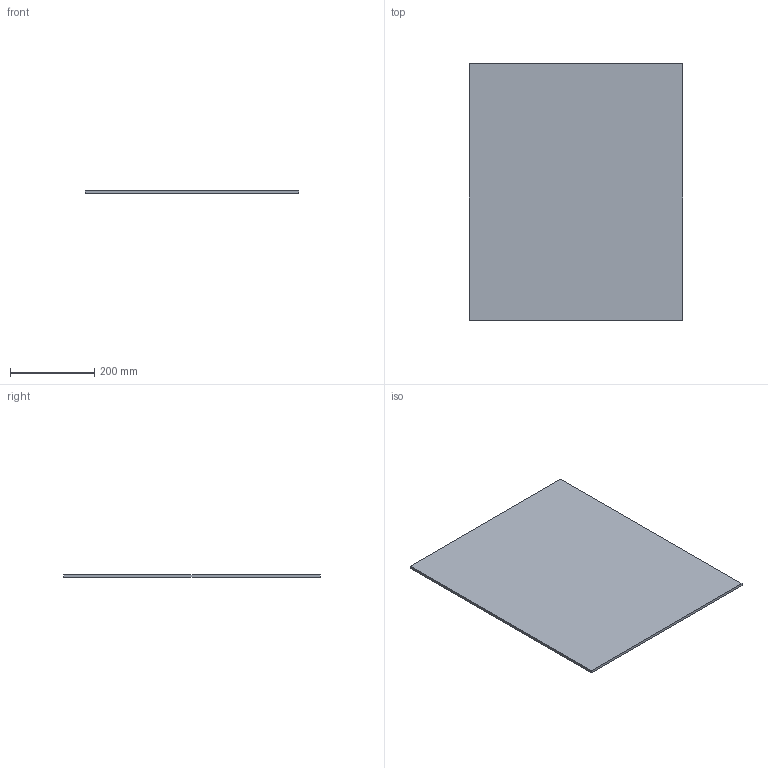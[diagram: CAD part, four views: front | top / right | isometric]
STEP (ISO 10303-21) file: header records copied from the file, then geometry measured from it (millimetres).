
FILE_DESCRIPTION(/* description */ ('STEP AP242 Edition 2','CAx-IF Rec.Pracs.---Representation and Presentation of Product Manufacturing Information (PMI)---4.0---2014-10-13','CAx-IF Rec.Pracs.---3D Tessellated Geometry---0.4---2014-09-14','2;1','CAx-IF Rec.Pracs.---User Defined Attributes---1.5---2016-08-15'),/* implementation_level */ '2;1');
FILE_NAME(/* name */ 'Mounting Surface',/* time_stamp */ '2025-11-29T19:54:07Z',/* author */ (''),/* organization */ (''),/* preprocessor_version */ 'ST-DEVELOPER v20',/* originating_system */ 'ONSHAPE BY PTC INC, 1.207',/* authorisation */ ' ');
FILE_SCHEMA (('AP242_MANAGED_MODEL_BASED_3D_ENGINEERING_MIM_LF { 1 0 10303 442 3 1 4 }'));
Length unit declared in the file: metre
Products named in the file (1): Mounting Surface
Bounding box: 508 x 609.6 x 6.35 mm (x, y, z)
Volume: 1966447.7 mm3; surface area: 633547.1 mm2
Topology: 1 solids, 1 shells, 6 faces, 12 edges, 8 vertices
Faces by surface type: plane 6
Entity records: 178 total; most frequent: CARTESIAN_POINT 27, DIRECTION 26, ORIENTED_EDGE 24, EDGE_CURVE 12, LINE 12, VECTOR 12, VERTEX_POINT 8, AXIS2_PLACEMENT_3D 7
